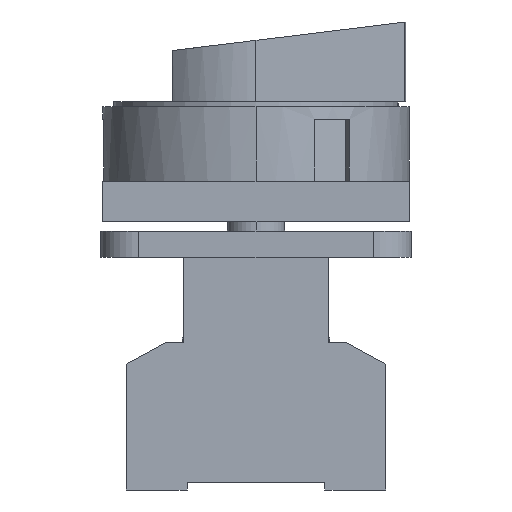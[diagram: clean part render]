
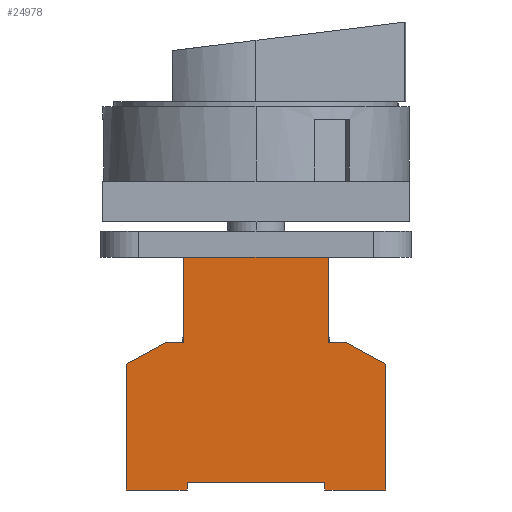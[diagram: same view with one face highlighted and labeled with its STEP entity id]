
A CAD part, left-side view. The second image highlights one B-rep face of the part: STEP entity #24978.
In plain terms, the highlighted planar face has unit normal (-1, 0, 0).
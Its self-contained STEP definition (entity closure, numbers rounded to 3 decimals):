
#735=DIRECTION('',(0.,1.,0.));
#736=VECTOR('',#735,30.5);
#737=CARTESIAN_POINT('',(-28.,-15.25,53.));
#738=LINE('',#737,#736);
#7325=DIRECTION('',(0.,0.,1.));
#7326=VECTOR('',#7325,22.);
#7327=CARTESIAN_POINT('',(-28.,15.25,31.));
#7328=LINE('',#7327,#7326);
#7329=DIRECTION('',(0.,0.,-1.));
#7330=VECTOR('',#7329,22.);
#7331=CARTESIAN_POINT('',(-28.,-15.25,53.));
#7332=LINE('',#7331,#7330);
#7333=DIRECTION('',(0.,-0.879,-0.477));
#7334=VECTOR('',#7333,9.441);
#7335=CARTESIAN_POINT('',(-28.,-19.,31.));
#7336=LINE('',#7335,#7334);
#7337=DIRECTION('',(0.,0.,1.));
#7338=VECTOR('',#7337,1.6);
#7339=CARTESIAN_POINT('',(-28.,-14.5,0.));
#7340=LINE('',#7339,#7338);
#7341=DIRECTION('',(0.,0.,1.));
#7342=VECTOR('',#7341,26.5);
#7343=CARTESIAN_POINT('',(-28.,27.3,0.));
#7344=LINE('',#7343,#7342);
#7345=DIRECTION('',(0.,-0.879,0.477));
#7346=VECTOR('',#7345,9.441);
#7347=CARTESIAN_POINT('',(-28.,27.3,26.5));
#7348=LINE('',#7347,#7346);
#7353=DIRECTION('',(0.,1.,0.));
#7354=VECTOR('',#7353,3.75);
#7355=CARTESIAN_POINT('',(-28.,-19.,31.));
#7356=LINE('',#7355,#7354);
#7389=DIRECTION('',(0.,1.,0.));
#7390=VECTOR('',#7389,3.75);
#7391=CARTESIAN_POINT('',(-28.,15.25,31.));
#7392=LINE('',#7391,#7390);
#7417=DIRECTION('',(0.,-1.,0.));
#7418=VECTOR('',#7417,12.8);
#7419=CARTESIAN_POINT('',(-28.,27.3,0.));
#7420=LINE('',#7419,#7418);
#7461=DIRECTION('',(0.,0.,1.));
#7462=VECTOR('',#7461,1.6);
#7463=CARTESIAN_POINT('',(-28.,14.5,0.));
#7464=LINE('',#7463,#7462);
#7469=DIRECTION('',(0.,-1.,0.));
#7470=VECTOR('',#7469,29.);
#7471=CARTESIAN_POINT('',(-28.,14.5,1.6));
#7472=LINE('',#7471,#7470);
#7485=DIRECTION('',(0.,-1.,0.));
#7486=VECTOR('',#7485,12.8);
#7487=CARTESIAN_POINT('',(-28.,-14.5,0.));
#7488=LINE('',#7487,#7486);
#7541=DIRECTION('',(0.,0.,1.));
#7542=VECTOR('',#7541,26.5);
#7543=CARTESIAN_POINT('',(-28.,-27.3,0.));
#7544=LINE('',#7543,#7542);
#13213=CARTESIAN_POINT('',(-28.,15.25,53.));
#13215=VERTEX_POINT('',#13213);
#13219=CARTESIAN_POINT('',(-28.,-15.25,53.));
#13220=VERTEX_POINT('',#13219);
#13607=CARTESIAN_POINT('',(-28.,15.25,31.));
#13608=VERTEX_POINT('',#13607);
#13613=CARTESIAN_POINT('',(-28.,-15.25,31.));
#13614=VERTEX_POINT('',#13613);
#13617=CARTESIAN_POINT('',(-28.,-19.,31.));
#13618=VERTEX_POINT('',#13617);
#13619=CARTESIAN_POINT('',(-28.,-27.3,26.5));
#13620=VERTEX_POINT('',#13619);
#13621=CARTESIAN_POINT('',(-28.,-27.3,0.));
#13622=VERTEX_POINT('',#13621);
#13623=CARTESIAN_POINT('',(-28.,-14.5,0.));
#13624=VERTEX_POINT('',#13623);
#13625=CARTESIAN_POINT('',(-28.,-14.5,1.6));
#13626=VERTEX_POINT('',#13625);
#13627=CARTESIAN_POINT('',(-28.,14.5,1.6));
#13628=VERTEX_POINT('',#13627);
#13629=CARTESIAN_POINT('',(-28.,14.5,0.));
#13630=VERTEX_POINT('',#13629);
#13631=CARTESIAN_POINT('',(-28.,27.3,0.));
#13632=VERTEX_POINT('',#13631);
#13633=CARTESIAN_POINT('',(-28.,27.3,26.5));
#13634=VERTEX_POINT('',#13633);
#13635=CARTESIAN_POINT('',(-28.,19.,31.));
#13636=VERTEX_POINT('',#13635);
#24946=CARTESIAN_POINT('',(-28.,27.3,0.));
#24947=DIRECTION('',(-1.,0.,0.));
#24948=DIRECTION('',(0.,-1.,0.));
#24949=AXIS2_PLACEMENT_3D('',#24946,#24947,#24948);
#24950=PLANE('',#24949);
#24951=ORIENTED_EDGE('',*,*,#24907,.T.);
#24952=ORIENTED_EDGE('',*,*,#15385,.F.);
#24953=ORIENTED_EDGE('',*,*,#24935,.T.);
#24955=ORIENTED_EDGE('',*,*,#24954,.F.);
#24957=ORIENTED_EDGE('',*,*,#24956,.T.);
#24959=ORIENTED_EDGE('',*,*,#24958,.F.);
#24961=ORIENTED_EDGE('',*,*,#24960,.F.);
#24963=ORIENTED_EDGE('',*,*,#24962,.T.);
#24965=ORIENTED_EDGE('',*,*,#24964,.F.);
#24967=ORIENTED_EDGE('',*,*,#24966,.F.);
#24969=ORIENTED_EDGE('',*,*,#24968,.F.);
#24971=ORIENTED_EDGE('',*,*,#24970,.T.);
#24973=ORIENTED_EDGE('',*,*,#24972,.T.);
#24975=ORIENTED_EDGE('',*,*,#24974,.F.);
#24976=EDGE_LOOP('',(#24951,#24952,#24953,#24955,#24957,#24959,#24961,#24963,
#24965,#24967,#24969,#24971,#24973,#24975));
#24977=FACE_OUTER_BOUND('',#24976,.F.);
#24978=ADVANCED_FACE('',(#24977),#24950,.T.);
#15385=EDGE_CURVE('',#13220,#13215,#738,.T.);
#24907=EDGE_CURVE('',#13608,#13215,#7328,.T.);
#24935=EDGE_CURVE('',#13220,#13614,#7332,.T.);
#24954=EDGE_CURVE('',#13618,#13614,#7356,.T.);
#24956=EDGE_CURVE('',#13618,#13620,#7336,.T.);
#24958=EDGE_CURVE('',#13622,#13620,#7544,.T.);
#24960=EDGE_CURVE('',#13624,#13622,#7488,.T.);
#24962=EDGE_CURVE('',#13624,#13626,#7340,.T.);
#24964=EDGE_CURVE('',#13628,#13626,#7472,.T.);
#24966=EDGE_CURVE('',#13630,#13628,#7464,.T.);
#24968=EDGE_CURVE('',#13632,#13630,#7420,.T.);
#24970=EDGE_CURVE('',#13632,#13634,#7344,.T.);
#24972=EDGE_CURVE('',#13634,#13636,#7348,.T.);
#24974=EDGE_CURVE('',#13608,#13636,#7392,.T.);
